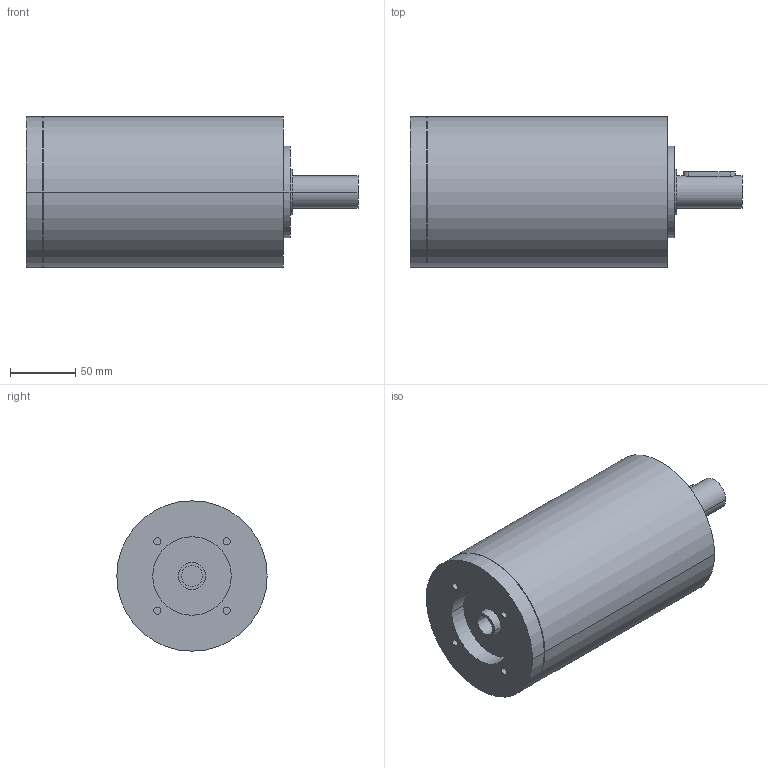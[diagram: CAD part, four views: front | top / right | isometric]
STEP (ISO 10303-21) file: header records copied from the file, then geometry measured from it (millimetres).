
FILE_DESCRIPTION(('CoCreate Modeling STEP Export'),'2;1');
FILE_NAME('GPR125_ig-48-64-80-100-140-196-245-343_25_B14_16_P02.stp','2014-08-26T14:21:21',(''),(''),'CoCreate Modeling STEP processor for AP214 (Solid Model)','CoCreate Modeling 16.00C 25-Feb-2009 (C) Parametric Technology GmbH','');
FILE_SCHEMA(('AUTOMOTIVE_DESIGN { 1 0 10303 214 1 1 1 1 }'));
Length unit declared in the file: millimetre
Products named in the file (2): GPR125_ig-48-64-80-100-140-196-245-343_25_B14_16_P02
Assembly tree (1 placements, depth 2):
  GPR125_ig-48-64-80-100-140-196-245-343_25_B14_16_P02
    GPR125_ig-48-64-80-100-140-196-245-343_25_B14_16_P02
Bounding box: 254 x 115 x 115 mm (x, y, z)
Volume: 2043986.9 mm3; surface area: 106444.8 mm2
Topology: 1 solids, 1 shells, 72 faces, 173 edges, 121 vertices
Faces by surface type: cylinder 44, plane 24, cone 4
Entity records: 1805 total; most frequent: ORIENTED_EDGE 342, CARTESIAN_POINT 336, DIRECTION 240, EDGE_CURVE 171, VERTEX_POINT 121, AXIS2_PLACEMENT_3D 93, EDGE_LOOP 92, FACE_OUTER_BOUND 72
